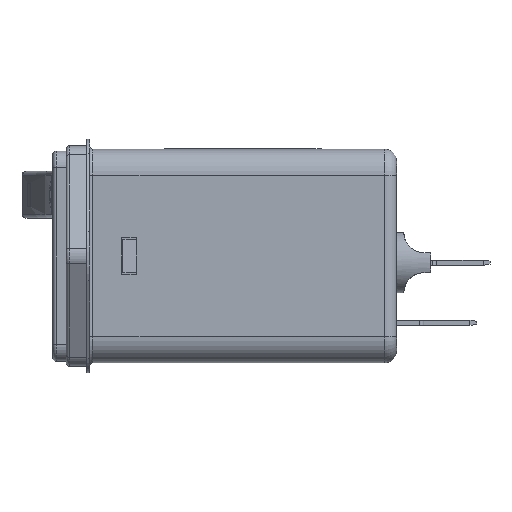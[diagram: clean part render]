
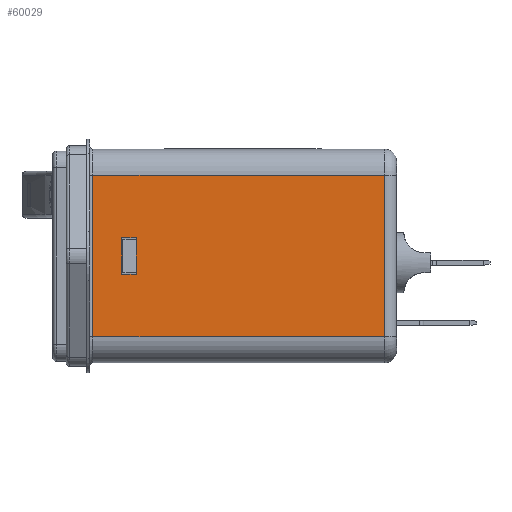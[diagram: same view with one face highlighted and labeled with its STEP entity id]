
A CAD part, front view. The second image highlights one B-rep face of the part: STEP entity #60029.
In plain terms, the highlighted planar face has unit normal (0, -1, 0).
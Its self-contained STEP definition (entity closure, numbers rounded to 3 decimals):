
#3346=FACE_BOUND('',#9784,.T.);
#6732=FACE_OUTER_BOUND('',#9783,.T.);
#9783=EDGE_LOOP('',(#53350,#53351,#53352,#53353));
#9784=EDGE_LOOP('',(#53354,#53355,#53356,#53357));
#16726=LINE('',#95989,#23886);
#16727=LINE('',#95991,#23887);
#16728=LINE('',#95993,#23888);
#16729=LINE('',#95994,#23889);
#16730=LINE('',#95997,#23890);
#16731=LINE('',#95999,#23891);
#16732=LINE('',#96001,#23892);
#16733=LINE('',#96002,#23893);
#23886=VECTOR('',#75546,10.);
#23887=VECTOR('',#75547,10.);
#23888=VECTOR('',#75548,10.);
#23889=VECTOR('',#75549,10.);
#23890=VECTOR('',#75550,10.);
#23891=VECTOR('',#75551,10.);
#23892=VECTOR('',#75552,10.);
#23893=VECTOR('',#75553,10.);
#29908=VERTEX_POINT('',#95987);
#29909=VERTEX_POINT('',#95988);
#29910=VERTEX_POINT('',#95990);
#29911=VERTEX_POINT('',#95992);
#29912=VERTEX_POINT('',#95995);
#29913=VERTEX_POINT('',#95996);
#29914=VERTEX_POINT('',#95998);
#29915=VERTEX_POINT('',#96000);
#37841=EDGE_CURVE('',#29908,#29909,#16726,.T.);
#37842=EDGE_CURVE('',#29910,#29908,#16727,.T.);
#37843=EDGE_CURVE('',#29911,#29910,#16728,.T.);
#37844=EDGE_CURVE('',#29909,#29911,#16729,.T.);
#37845=EDGE_CURVE('',#29912,#29913,#16730,.T.);
#37846=EDGE_CURVE('',#29913,#29914,#16731,.T.);
#37847=EDGE_CURVE('',#29914,#29915,#16732,.T.);
#37848=EDGE_CURVE('',#29915,#29912,#16733,.T.);
#53350=ORIENTED_EDGE('',*,*,#37841,.F.);
#53351=ORIENTED_EDGE('',*,*,#37842,.F.);
#53352=ORIENTED_EDGE('',*,*,#37843,.F.);
#53353=ORIENTED_EDGE('',*,*,#37844,.F.);
#53354=ORIENTED_EDGE('',*,*,#37845,.T.);
#53355=ORIENTED_EDGE('',*,*,#37846,.T.);
#53356=ORIENTED_EDGE('',*,*,#37847,.T.);
#53357=ORIENTED_EDGE('',*,*,#37848,.T.);
#57204=PLANE('',#63100);
#60029=ADVANCED_FACE('',(#6732,#3346),#57204,.T.);
#63100=AXIS2_PLACEMENT_3D('',#95986,#75544,#75545);
#75544=DIRECTION('center_axis',(0.,-1.,0.));
#75545=DIRECTION('ref_axis',(0.,0.,1.));
#75546=DIRECTION('',(0.,0.,1.));
#75547=DIRECTION('',(-1.,0.,0.));
#75548=DIRECTION('',(0.,0.,-1.));
#75549=DIRECTION('',(1.,0.,0.));
#75550=DIRECTION('',(0.,0.,1.));
#75551=DIRECTION('',(1.,0.,0.));
#75552=DIRECTION('',(0.,0.,-1.));
#75553=DIRECTION('',(-1.,0.,0.));
#95986=CARTESIAN_POINT('Origin',(26.015,-23.174,-18.554));
#95987=CARTESIAN_POINT('',(-19.485,-23.174,-14.654));
#95988=CARTESIAN_POINT('',(-19.485,-23.174,9.546));
#95989=CARTESIAN_POINT('',(-19.485,-23.174,-5.424));
#95990=CARTESIAN_POINT('',(24.215,-23.174,-14.654));
#95991=CARTESIAN_POINT('',(26.015,-23.174,-14.654));
#95992=CARTESIAN_POINT('',(24.215,-23.174,9.546));
#95993=CARTESIAN_POINT('',(24.215,-23.174,-10.554));
#95994=CARTESIAN_POINT('',(26.015,-23.174,9.546));
#95995=CARTESIAN_POINT('',(-15.185,-23.174,-5.304));
#95996=CARTESIAN_POINT('',(-15.185,-23.174,0.196));
#95997=CARTESIAN_POINT('',(-15.185,-23.174,-11.929));
#95998=CARTESIAN_POINT('',(-12.985,-23.174,0.196));
#95999=CARTESIAN_POINT('',(5.415,-23.174,0.196));
#96000=CARTESIAN_POINT('',(-12.985,-23.174,-5.304));
#96001=CARTESIAN_POINT('',(-12.985,-23.174,-9.179));
#96002=CARTESIAN_POINT('',(6.515,-23.174,-5.304));
